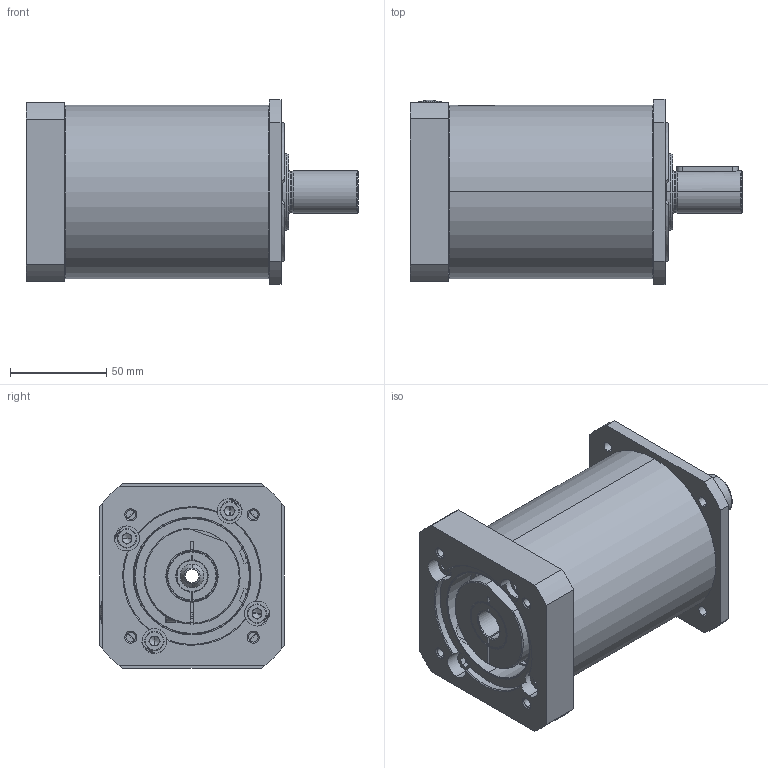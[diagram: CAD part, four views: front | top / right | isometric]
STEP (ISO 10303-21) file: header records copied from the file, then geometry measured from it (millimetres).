
FILE_DESCRIPTION (( 'STEP AP214' ), '1' );
FILE_NAME ('AL-034-RRR-FFF-MMM-S-LL-XXX-AXX-0000.STEP', '2019-10-23T15:38:30', ( '' ), ( '' ), 'SwSTEP 2.0', 'SolidWorks 2019', '' );
FILE_SCHEMA (( 'AUTOMOTIVE_DESIGN' ));
Length unit declared in the file: millimetre
Products named in the file (1): AL-034-RRR-FFF-MMM-S-LL-XXX-AXX-0000
Bounding box: 172.5 x 96 x 96 mm (x, y, z)
Surface area: 91711.6 mm2 (no closed solid volume)
Topology: 0 solids, 94 shells, 462 faces, 2542 edges, 2137 vertices
Faces by surface type: plane 225, cylinder 121, cone 69, torus 31, bspline 14, sphere 2
Entity records: 38728 total; most frequent: CARTESIAN_POINT 15623, ORIENTED_EDGE 3305, DIRECTION 3096, EDGE_CURVE 2524, VERTEX_POINT 2137, LINE 1248, VECTOR 1248, AXIS2_PLACEMENT_3D 924
